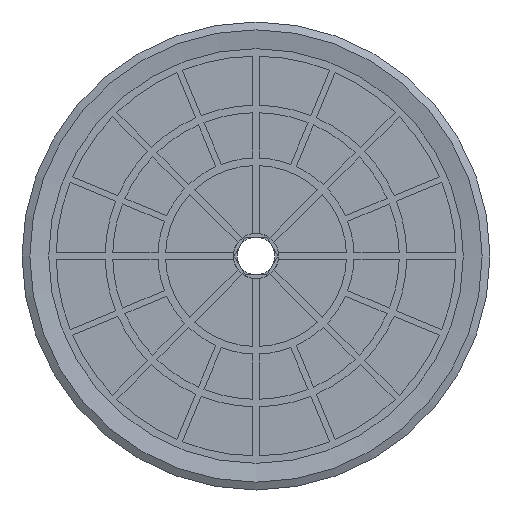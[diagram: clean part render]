
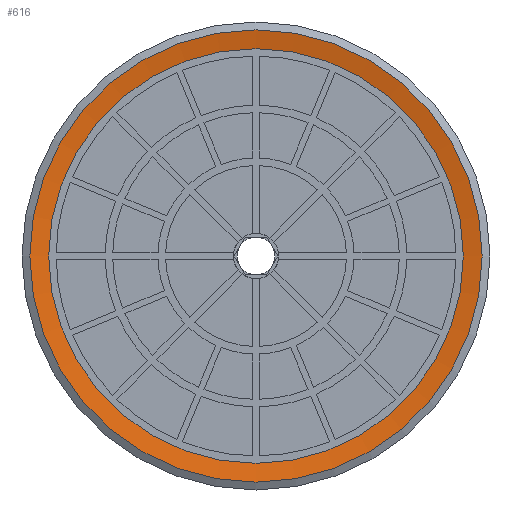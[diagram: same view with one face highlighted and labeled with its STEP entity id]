
A CAD part, front view. The second image highlights one B-rep face of the part: STEP entity #616.
In plain terms, the highlighted conical face has half-angle 80 degrees and reference radius 15 mm.
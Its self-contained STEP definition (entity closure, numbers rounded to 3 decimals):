
#616=ADVANCED_FACE('',(#1144,#1145),#1146,.F.);
#1144=FACE_BOUND('',#1882,.T.);
#1145=FACE_OUTER_BOUND('',#1883,.T.);
#1146=CONICAL_SURFACE('',#1884,15.0,1.396);
#1882=EDGE_LOOP('',(#3368));
#1883=EDGE_LOOP('',(#3369));
#1884=AXIS2_PLACEMENT_3D('',#3370,#3371,#3372);
#3368=ORIENTED_EDGE('',*,*,#5065,.T.);
#3369=ORIENTED_EDGE('',*,*,#5066,.F.);
#3370=CARTESIAN_POINT('',(0.0,0.,0.));
#3371=DIRECTION('',(0.0,0.,-1.0));
#3372=DIRECTION('',(0.0,1.0,0.));
#5065=EDGE_CURVE('',#6087,#6087,#6088,.T.);
#5066=EDGE_CURVE('',#6089,#6089,#6090,.T.);
#6087=VERTEX_POINT('',#7849);
#6088=CIRCLE('',#7850,13.75);
#6089=VERTEX_POINT('',#7851);
#6090=CIRCLE('',#7852,15.0);
#7849=CARTESIAN_POINT('',(0.0,-13.75,0.22));
#7850=AXIS2_PLACEMENT_3D('',#9188,#9189,#9190);
#7851=CARTESIAN_POINT('',(0.0,-15.0,0.));
#7852=AXIS2_PLACEMENT_3D('',#9191,#9192,#9193);
#9188=CARTESIAN_POINT('',(0.0,0.,0.22));
#9189=DIRECTION('',(0.0,0.,1.0));
#9190=DIRECTION('',(0.0,-1.0,0.));
#9191=CARTESIAN_POINT('',(0.0,0.,0.));
#9192=DIRECTION('',(0.0,0.,1.0));
#9193=DIRECTION('',(0.0,-1.0,0.));
